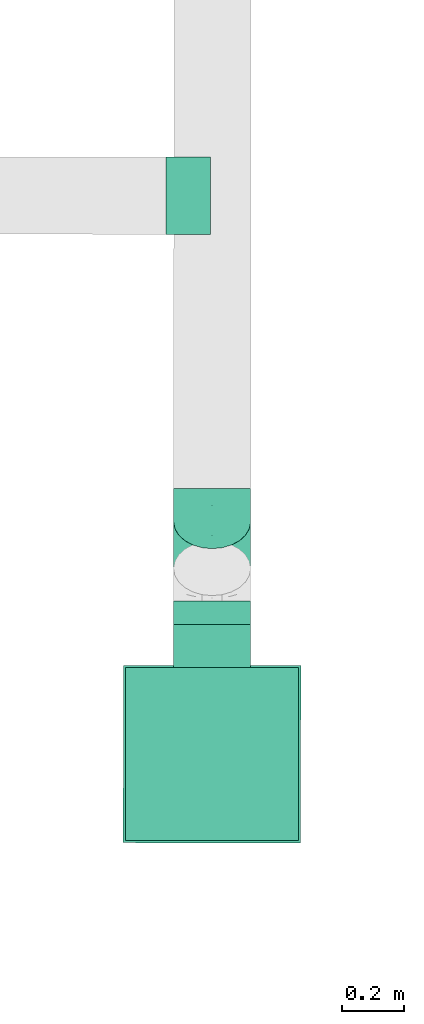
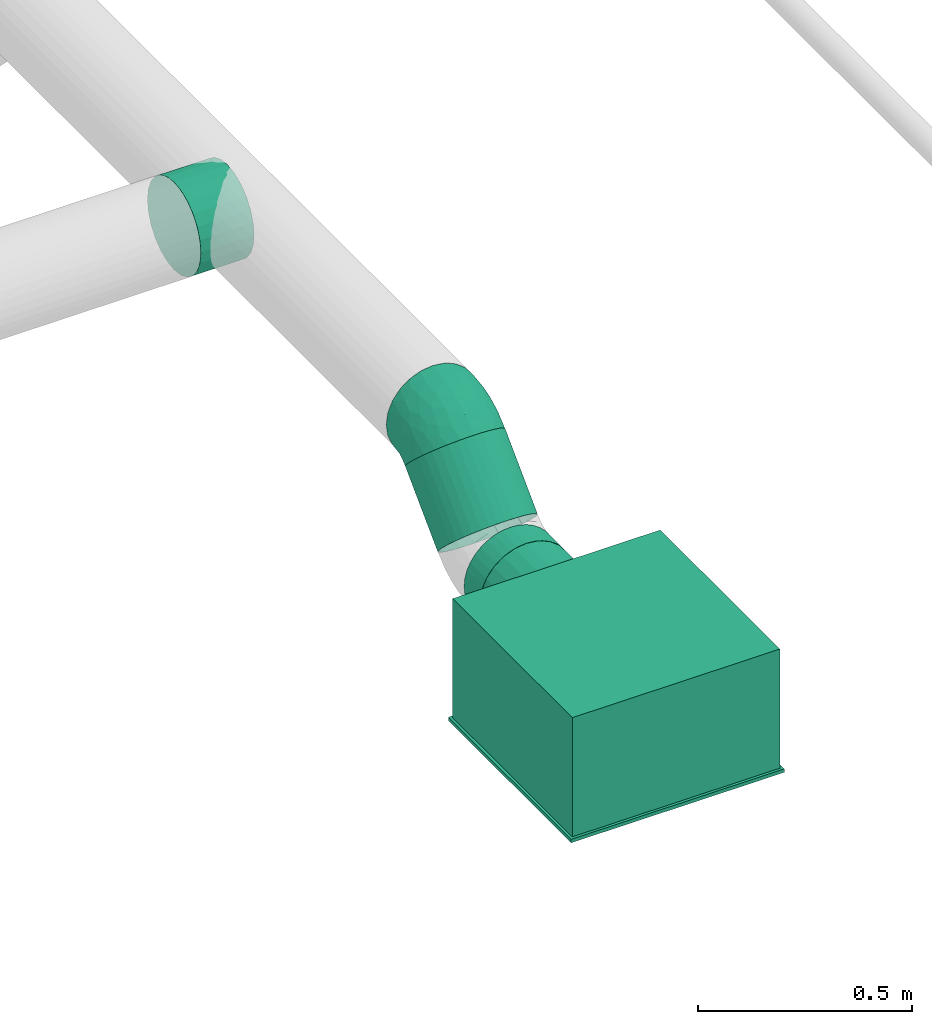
# One storey, part 28 of 63: 2 flow fittings, 2 flow segments, 1 flow terminal.
"""IFC2X3 building model written with IfcOpenShell, lengths in millimetres."""

from ifc_helpers import new_model, entity, si_unit, converted_unit, derived_unit, direction, frame, origin_with_axes, origin_2d_with_axis, place, context, subcontext, project, spatial, hollow_circle, extrude, open_shell, surface_model, source, transform, mapped, type_object, element, save


model = new_model("IFC2X3")

# Units and contexts
model_context = context("Model", 3, precision=0.01, world=frame((0.0, 4.29681676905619e-09, 0.0)), true_north=direction((4.01073788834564e-13, 1.0)))
plan_context = context("Plan", 3, precision=0.01, world=frame((0.0, 4.29681676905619e-09, 0.0)), true_north=direction((4.01073788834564e-13, 1.0)))
body_context = subcontext(model_context, "Body", "Model", "MODEL_VIEW")
ifc_project = project(units=[converted_unit("PLANEANGLEUNIT", "DEGREE", entity("IfcPositiveLengthMeasure", 0.0174532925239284), si_unit("PLANEANGLEUNIT", "RADIAN"), dimensions=[0, 0, 0, 0, 0, 0, 0]), si_unit("AREAUNIT", "SQUARE_METRE"), si_unit("LENGTHUNIT", "METRE", prefix="MILLI"), si_unit("MASSUNIT", "GRAM", prefix="KILO"), si_unit("POWERUNIT", "WATT"), si_unit("PRESSUREUNIT", "PASCAL"), si_unit("FORCEUNIT", "NEWTON", prefix="KILO"), si_unit("ELECTRICVOLTAGEUNIT", "VOLT"), si_unit("ELECTRICCURRENTUNIT", "AMPERE"), si_unit("THERMODYNAMICTEMPERATUREUNIT", "DEGREE_CELSIUS"), si_unit("TIMEUNIT", "SECOND"), si_unit("VOLUMEUNIT", "CUBIC_METRE"), derived_unit("LINEARVELOCITYUNIT", [(si_unit("LENGTHUNIT", "METRE"), 1), (si_unit("TIMEUNIT", "SECOND"), -1)]), derived_unit("VOLUMETRICFLOWRATEUNIT", [(si_unit("VOLUMEUNIT", "CUBIC_METRE"), 1), (si_unit("TIMEUNIT", "SECOND"), -1)]), derived_unit("THERMALTRANSMITTANCEUNIT", [(si_unit("POWERUNIT", "WATT"), 1), (si_unit("THERMODYNAMICTEMPERATUREUNIT", "KELVIN"), -1), (si_unit("AREAUNIT", "SQUARE_METRE"), -1)]), derived_unit("SOUNDPRESSUREUNIT", [(si_unit("PRESSUREUNIT", "PASCAL"), 1)])], contexts=[model_context, plan_context])

# Site, building, storey
site_placement = place(None, frame((0.0, -4.29681676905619e-09, 0.0), z_axis=(0.0, 0.0, 1.0), x_axis=(1.0, 0.0, 0.0)))
site = spatial("IfcSite", under=ifc_project, at=site_placement, CompositionType="ELEMENT")
building_placement = place(site_placement, frame((0.0, 4.29681676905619e-09, 0.0), z_axis=(0.0, 0.0, 1.0), x_axis=(1.0, 0.0, 0.0)))
building = spatial("IfcBuilding", under=site, at=building_placement, Name="mc-building", CompositionType="ELEMENT")
storey_placement = place(building_placement, frame((0.0, 0.0, 210900.0), z_axis=(0.0, 0.0, 1.0), x_axis=(1.0, 0.0, 0.0)))
storey = spatial("IfcBuildingStorey", under=building, at=storey_placement, Name="Nivå F", CompositionType="ELEMENT", Elevation=210900.0)

# Flow fittings
duct_fitting_type_1 = type_object("IfcDuctFittingType", Name="magicirc_elbow_short_001", PredefinedType="BEND")
shared_shape_1 = source(origin_with_axes(), body_context, "Body", "SurfaceModel", [
    surface_model("IfcShellBasedSurfaceModel", [(-62.13204, 0.0, -125.0), (-62.13204, -32.35238, -120.74073), (-62.13204, 32.35238, -120.74073), (-62.13204, 62.5, -108.25318), (-62.13204, 88.38835, -88.38835), (-62.13204, 108.25318, -62.5), (-62.13204, 120.74073, -32.35238), (-62.13204, -62.5, -108.25318), (-62.13204, -88.38835, -88.38835), (-62.13204, -125.0, 0.0), (-62.13204, -108.25318, -62.5), (-62.13204, -120.74073, -32.35238), (-62.13204, 125.0, 0.0), (-62.13204, -120.74073, 32.35238), (-62.13204, 120.74073, 32.35238), (-62.13204, 108.25318, 62.5), (-62.13204, 32.35238, 120.74073), (-62.13204, 62.5, 108.25318), (-62.13204, 88.38835, 88.38835), (-62.13204, -88.38835, 88.38835), (-62.13204, -108.25318, 62.5), (-62.13204, -32.35238, 120.74073), (-62.13204, 0.0, 125.0), (-62.13204, -62.5, 108.25318), (-32.61257, 120.48054, -62.5), (-41.44261, 129.31057, -32.35238), (-44.45436, 132.32233, 0.0), (-41.44261, 129.31057, 32.35238), (-32.61257, 120.48054, 62.5), (-39.32094, -100.77129, 72.52866), (-25.3983, -115.58366, 40.92131), (-9.38975, -99.61313, 67.6303), (-40.71594, 99.20513, 81.38635), (-18.56602, 106.43398, 88.38835), (6.93461, -16.74165, 121.22697), (-29.92798, -19.88945, 122.8817), (-17.69423, -50.99343, 111.83063), (-28.63512, 12.8945, 124.68547), (-43.55871, 45.16564, 117.17454), (-19.1971, 46.34588, 119.14586), (20.11216, -107.05726, 35.36285), (37.22525, -89.79474, 60.1728), (-42.64489, 65.81413, 107.6176), (18.18237, -43.89615, 109.72868), (-48.14682, 116.23669, 52.46898), (11.13029, 29.36587, 124.68547), (-8.4822, -119.71595, 0.0), (17.31186, -111.89141, 0.0), (-27.44697, 77.92943, 103.54984), (-1.13628, 62.73759, 117.17454), (-0.26019, 88.12816, 108.25318), (29.58221, -71.41779, 87.09722), (2.27359, -83.55864, 84.32151), (46.20365, -49.09439, 98.73245), (43.10591, -104.06687, 0.0), (-28.63512, 12.89449, -124.68547), (-29.92797, -19.88945, -122.8817), (11.13029, 29.36586, -124.68547), (-19.1971, 46.34588, -119.14586), (-43.55871, 45.16564, -117.17454), (-35.69649, 74.51237, -103.54983), (-25.3983, -115.58366, -40.92131), (-48.14682, 116.23669, -52.46898), (-39.32094, -100.77129, -72.52866), (-16.38313, 76.69211, -107.6176), (-18.56602, 106.43398, -88.38835), (-0.26019, 88.12816, -108.25318), (-17.69423, -50.99343, -111.83063), (6.93461, -16.74165, -121.22697), (-1.13628, 62.73759, -117.17454), (48.5695, -23.54609, -111.83063), (35.22623, 7.0983, -122.8817), (-9.38975, -99.61313, -67.63031), (2.04406, -67.38589, -98.73245), (29.58221, -71.41778, -87.09723), (43.93399, 43.934, -125.0), (106.43399, -18.56599, 88.38835), (132.32235, -44.45434, 0.0), (21.05739, 66.81058, -120.74073), (88.12817, -0.26017, 108.25318), (66.81057, 21.05741, -120.74073), (106.43399, -18.56599, -88.38835), (88.12817, -0.26017, -108.25318), (129.31058, -41.44258, -32.35238), (120.48055, -32.61255, -62.5), (21.05739, 66.81058, 120.74073), (43.93399, 43.934, 125.0), (129.31058, -41.44258, 32.35238), (120.48055, -32.61255, 62.5), (66.81057, 21.05741, 120.74073), (-31.08246, -121.94188, 0.0), (35.22622, 7.09831, 122.8817), (77.07669, -63.79755, 67.6303), (61.9235, -89.5906, 35.66991), (-52.56496, 126.90301, 0.0), (99.68931, -63.77067, 40.92131), (48.5695, -23.54609, 111.83062), (99.06018, -43.45194, 72.52866), (74.0201, -37.27574, 94.74512), (108.20455, -64.2473, 0.0), (90.64979, -78.65413, 0.0), (66.87785, -91.36049, 0.0), (-3.43913, -67.17105, 100.02812), (19.56361, -107.13664, -35.66991), (-41.35812, 98.93914, -81.38635), (-25.98217, -78.69805, -94.74512), (61.47949, -89.92235, -35.36285), (18.18239, -43.89616, -109.72867), (57.47721, -60.69254, -84.32152), (74.02009, -37.27574, -94.74513), (77.07669, -63.79755, -67.6303), (37.17223, -89.81669, -60.17279), (99.68931, -63.77066, -40.92131), (99.06018, -43.45194, -72.52866), (49.92893, -45.06527, -100.02812), (-25.98217, -78.69805, 94.74512)], [open_shell([[[0, 1, 2]], [[3, 2, 4]], [[1, 5, 2]], [[4, 2, 5]], [[5, 1, 6]], [[7, 8, 1]], [[9, 1, 8]], [[10, 11, 8]], [[9, 8, 11]], [[9, 6, 1]], [[9, 12, 6]], [[12, 13, 14]], [[15, 14, 16]], [[16, 17, 18]], [[15, 16, 18]], [[16, 14, 19]], [[20, 19, 13]], [[19, 14, 13]], [[21, 22, 23]], [[19, 23, 22]], [[19, 22, 16]], [[9, 13, 12]], [[24, 25, 26]], [[26, 27, 28]], [[29, 30, 31]], [[32, 33, 28]], [[30, 20, 13]], [[34, 35, 36]], [[21, 35, 22]], [[21, 23, 36]], [[16, 22, 37]], [[38, 37, 39]], [[31, 40, 41]], [[42, 17, 38]], [[38, 17, 16]], [[43, 34, 36]], [[35, 37, 22]], [[14, 15, 44]], [[42, 32, 18]], [[29, 19, 20]], [[40, 31, 30]], [[37, 45, 39]], [[45, 37, 34]], [[40, 46, 47]], [[42, 18, 17]], [[33, 32, 48]], [[27, 44, 28]], [[48, 39, 49]], [[33, 48, 50]], [[44, 32, 28]], [[18, 32, 15]], [[36, 35, 21]], [[37, 35, 34]], [[41, 51, 52]], [[14, 44, 27]], [[32, 44, 15]], [[37, 38, 16]], [[42, 39, 48]], [[39, 42, 38]], [[42, 48, 32]], [[48, 49, 50]], [[45, 49, 39]], [[30, 29, 20]], [[53, 43, 51]], [[46, 40, 30]], [[47, 54, 40]], [[41, 52, 31]], [[0, 2, 55]], [[56, 1, 0]], [[57, 55, 58]], [[59, 60, 58]], [[10, 61, 11]], [[3, 4, 60]], [[62, 6, 25]], [[61, 10, 63]], [[64, 65, 66]], [[1, 56, 67]], [[8, 63, 10]], [[7, 1, 67]], [[56, 55, 68]], [[25, 24, 62]], [[69, 64, 66]], [[2, 3, 59]], [[59, 55, 2]], [[69, 57, 58]], [[70, 68, 71]], [[55, 57, 68]], [[55, 56, 0]], [[67, 56, 68]], [[57, 71, 68]], [[6, 62, 5]], [[60, 59, 3]], [[55, 59, 58]], [[64, 58, 60]], [[58, 64, 69]], [[61, 63, 72]], [[72, 73, 74]], [[75, 76, 77]], [[66, 26, 78]], [[78, 79, 75]], [[24, 66, 65]], [[66, 24, 26]], [[80, 81, 82]], [[80, 75, 81]], [[81, 83, 84]], [[83, 81, 77]], [[75, 77, 81]], [[26, 28, 50]], [[50, 85, 26]], [[50, 28, 33]], [[26, 85, 86]], [[87, 76, 88]], [[77, 76, 87]], [[79, 86, 89]], [[76, 75, 79]], [[86, 79, 26]], [[78, 26, 79]], [[90, 46, 30]], [[91, 45, 34]], [[92, 41, 93]], [[94, 14, 27]], [[40, 93, 41]], [[94, 12, 14]], [[92, 93, 95]], [[40, 54, 93]], [[96, 89, 91]], [[97, 88, 76]], [[89, 96, 79]], [[88, 97, 95]], [[88, 95, 87]], [[96, 98, 79]], [[53, 92, 98]], [[95, 99, 87]], [[85, 50, 49]], [[41, 92, 51]], [[30, 13, 90]], [[26, 94, 27]], [[93, 100, 95]], [[93, 54, 101]], [[86, 91, 89]], [[86, 85, 45]], [[45, 85, 49]], [[34, 43, 96]], [[79, 98, 76]], [[93, 101, 100]], [[53, 98, 96]], [[97, 98, 92]], [[45, 91, 86]], [[96, 91, 34]], [[13, 9, 90]], [[99, 95, 100]], [[99, 77, 87]], [[98, 97, 76]], [[95, 97, 92]], [[51, 43, 102]], [[51, 102, 52]], [[43, 36, 102]], [[43, 53, 96]], [[92, 53, 51]], [[103, 46, 61]], [[78, 75, 57]], [[4, 104, 60]], [[73, 72, 105]], [[80, 82, 70]], [[61, 90, 11]], [[83, 77, 99]], [[105, 7, 67]], [[106, 100, 101]], [[103, 54, 47]], [[72, 103, 61]], [[105, 8, 7]], [[68, 107, 67]], [[6, 12, 94]], [[108, 109, 110]], [[94, 26, 25]], [[111, 72, 74]], [[112, 83, 99]], [[82, 81, 109]], [[112, 84, 83]], [[64, 104, 65]], [[4, 5, 104]], [[113, 81, 84]], [[109, 108, 114]], [[70, 82, 109]], [[66, 78, 69]], [[75, 80, 71]], [[110, 113, 112]], [[107, 68, 70]], [[112, 99, 100]], [[106, 103, 111]], [[106, 110, 112]], [[110, 106, 111]], [[71, 57, 75]], [[103, 47, 46]], [[94, 25, 6]], [[113, 109, 81]], [[106, 54, 103]], [[73, 105, 67]], [[63, 105, 72]], [[62, 104, 5]], [[65, 104, 24]], [[70, 71, 80]], [[90, 61, 46]], [[90, 9, 11]], [[72, 111, 103]], [[111, 74, 108]], [[104, 62, 24]], [[57, 69, 78]], [[64, 60, 104]], [[112, 113, 84]], [[109, 113, 110]], [[105, 63, 8]], [[114, 70, 109]], [[73, 107, 74]], [[100, 106, 112]], [[101, 54, 106]], [[111, 108, 110]], [[74, 107, 114]], [[74, 114, 108]], [[107, 70, 114]], [[107, 73, 67]], [[23, 115, 36]], [[52, 102, 115]], [[23, 19, 115]], [[29, 115, 19]], [[52, 115, 31]], [[115, 29, 31]], [[102, 36, 115]]])]),
])
flow_fitting_1_placement = place(storey_placement, frame((534104.08878, 451581.46028, 4200.0), z_axis=(-0.999999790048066, 0.000647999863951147, -3.79470760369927e-19), x_axis=(0.000458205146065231, 0.707106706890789, 0.707106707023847)))
element("IfcFlowFitting", 1, at=flow_fitting_1_placement, inside=storey, type_object=duct_fitting_type_1, Name="magicirc_elbow_short_001", context=body_context, shape_type="MappedRepresentation", body=[
    mapped(shared_shape_1, transform((0.0, 0.0, 0.0), scale=1.0)),
])
duct_fitting_type_2 = type_object("IfcDuctFittingType", Name="magicirc_tapoutlet_001", PredefinedType="CONNECTOR")
shared_shape_2 = source(origin_with_axes(), body_context, "Body", "SurfaceModel", [
    surface_model("IfcShellBasedSurfaceModel", [(-118.904, 88.38835, -88.38835), (-118.904, 120.74073, 32.35238), (-118.904, 108.25318, -62.5), (-118.904, -88.38835, -88.38835), (-118.904, -125.0, 0.0), (-118.904, -62.5, -108.25318), (-118.904, -120.74073, -32.35238), (-118.904, -108.25318, -62.5), (0.0, 125.0, 0.0), (0.0, 120.74073, -32.35238), (-118.904, 125.0, 0.0), (0.0, -120.74073, -32.35238), (0.0, -125.0, 0.0), (-118.904, -32.35238, -120.74073), (-118.904, 0.0, -125.0), (-118.904, 62.5, -108.25318), (-118.904, 32.35238, -120.74073), (-118.904, 120.74073, -32.35238), (-118.904, -120.74073, 32.35238), (-118.904, -108.25318, 62.5), (-118.904, -62.5, 108.25318), (-118.904, -32.35238, 120.74073), (-118.904, -88.38835, 88.38835), (-118.904, 62.5, 108.25318), (-118.904, 108.25318, 62.5), (-118.904, 88.38835, 88.38835), (-118.904, 32.35238, 120.74073), (-118.904, 0.0, 125.0), (0.0, -32.35238, 120.74073), (0.0, 0.0, 125.0), (0.0, -62.5, 108.25318), (0.0, -88.38835, 88.38835), (0.0, -120.74073, 32.35238), (0.0, -108.25318, 62.5), (0.0, -108.25318, -62.5), (0.0, -88.38835, -88.38835), (0.0, -32.35238, -120.74073), (0.0, -62.5, -108.25318), (0.0, 0.0, -125.0), (0.0, 32.35238, -120.74073), (0.0, 62.5, -108.25318), (0.0, 88.38835, -88.38835), (0.0, 108.25318, -62.5), (0.0, 120.74073, 32.35238), (0.0, 108.25318, 62.5), (0.0, 88.38835, 88.38835), (0.0, 32.35238, 120.74073), (0.0, 62.5, 108.25318), (25.0, -88.38835, -88.38835), (25.0, -120.74073, 32.35238), (25.0, -108.25318, -62.5), (25.0, 32.35238, -120.74073), (25.0, 0.0, -125.0), (25.0, 62.5, -108.25318), (25.0, -32.35238, -120.74073), (25.0, -62.5, -108.25318), (25.0, -125.0, 0.0), (25.0, -120.74073, -32.35238), (25.0, 88.38835, -88.38835), (25.0, 108.25318, -62.5), (25.0, 125.0, 0.0), (25.0, 120.74073, 32.35238), (25.0, 120.74073, -32.35238), (25.0, -108.25318, 62.5), (25.0, -62.5, 108.25318), (25.0, -32.35238, 120.74073), (25.0, -88.38835, 88.38835), (25.0, 0.0, 125.0), (25.0, 108.25318, 62.5), (25.0, 88.38835, 88.38835), (25.0, 32.35238, 120.74073), (25.0, 62.5, 108.25318)], [open_shell([[[0, 1, 2]], [[3, 4, 5]], [[6, 4, 7]], [[3, 7, 4]], [[8, 9, 10]], [[4, 11, 12]], [[13, 4, 14]], [[5, 4, 13]], [[0, 14, 1]], [[14, 15, 16]], [[14, 0, 15]], [[2, 1, 17]], [[2, 0, 1]], [[1, 10, 17]], [[4, 7, 6]], [[18, 19, 14]], [[14, 19, 20]], [[21, 14, 20]], [[20, 19, 22]], [[14, 21, 23]], [[14, 24, 1]], [[25, 24, 14]], [[25, 14, 23]], [[21, 26, 23]], [[21, 27, 26]], [[4, 18, 14]], [[28, 29, 21]], [[30, 28, 20]], [[21, 29, 27]], [[20, 28, 21]], [[20, 22, 30]], [[22, 31, 30]], [[32, 33, 18]], [[12, 32, 4]], [[22, 19, 31]], [[19, 33, 31]], [[18, 33, 19]], [[18, 4, 32]], [[7, 34, 11]], [[6, 11, 4]], [[34, 7, 3]], [[6, 7, 11]], [[3, 35, 34]], [[36, 37, 13]], [[38, 36, 14]], [[3, 5, 35]], [[5, 37, 35]], [[13, 37, 5]], [[13, 14, 36]], [[39, 38, 16]], [[40, 39, 15]], [[16, 38, 14]], [[15, 39, 16]], [[15, 0, 40]], [[0, 41, 40]], [[9, 42, 17]], [[0, 2, 41]], [[2, 42, 41]], [[17, 42, 2]], [[17, 10, 9]], [[43, 8, 1]], [[44, 43, 24]], [[1, 8, 10]], [[24, 43, 1]], [[24, 25, 44]], [[25, 45, 44]], [[46, 47, 26]], [[29, 46, 27]], [[25, 23, 45]], [[23, 47, 45]], [[26, 47, 23]], [[26, 27, 46]], [[7, 4, 3]], [[15, 16, 14]], [[19, 14, 18]], [[19, 22, 14]], [[14, 22, 20]], [[14, 23, 25]], [[27, 26, 21]], [[14, 4, 18]], [[48, 49, 50]], [[51, 52, 38]], [[53, 51, 39]], [[53, 39, 40]], [[38, 52, 54]], [[36, 54, 55]], [[37, 36, 55]], [[56, 57, 49]], [[58, 59, 60]], [[58, 60, 53]], [[52, 51, 54]], [[54, 49, 55]], [[55, 49, 48]], [[54, 60, 61]], [[54, 51, 53]], [[62, 60, 59]], [[53, 60, 54]], [[57, 50, 49]], [[63, 49, 54]], [[64, 63, 54]], [[64, 54, 65]], [[66, 63, 64]], [[67, 65, 54]], [[61, 68, 54]], [[68, 69, 54]], [[70, 67, 71]], [[69, 71, 67]], [[54, 69, 67]], [[65, 67, 29]], [[64, 65, 28]], [[28, 65, 29]], [[31, 66, 30]], [[64, 28, 30]], [[64, 30, 66]], [[49, 63, 33]], [[56, 49, 32]], [[33, 63, 31]], [[49, 33, 32]], [[56, 32, 12]], [[66, 31, 63]], [[57, 56, 12]], [[50, 57, 11]], [[11, 57, 12]], [[35, 48, 34]], [[50, 11, 34]], [[50, 34, 48]], [[37, 55, 35]], [[54, 36, 38]], [[48, 35, 55]], [[39, 51, 38]], [[41, 58, 40]], [[53, 40, 58]], [[62, 59, 42]], [[60, 62, 9]], [[42, 59, 41]], [[62, 42, 9]], [[60, 9, 8]], [[58, 41, 59]], [[61, 60, 8]], [[68, 61, 43]], [[43, 61, 8]], [[45, 69, 44]], [[68, 43, 44]], [[68, 44, 69]], [[70, 71, 47]], [[67, 70, 46]], [[47, 71, 45]], [[70, 47, 46]], [[67, 46, 29]], [[69, 45, 71]], [[66, 63, 54]], [[54, 65, 64]], [[64, 66, 54]], [[54, 69, 71]], [[67, 54, 71]]])]),
])
flow_fitting_2_placement = place(storey_placement, frame((533979.74383, 452592.76929, 4200.0), z_axis=(0.0, 0.0, -1.0), x_axis=(-0.999999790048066, 0.000647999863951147, 0.0)))
element("IfcFlowFitting", 2, at=flow_fitting_2_placement, inside=storey, type_object=duct_fitting_type_2, Name="magicirc_tapoutlet_001", context=body_context, shape_type="MappedRepresentation", body=[
    mapped(shared_shape_2, transform((0.0, 0.0, 0.0), scale=1.0)),
])

# Flow segments
duct_segment_type = type_object("IfcDuctSegmentType", Name="KK002T - Spiro kanaler, Forsinket stål, korte bend", PredefinedType="RIGIDSEGMENT")
shared_shape_3 = source(origin_with_axes(), body_context, "Body", "SweptSolid", [
    extrude(hollow_circle(Radius=125.0, WallThickness=2.0, at=origin_2d_with_axis()), frame((0.0, 0.0, 0.0), z_axis=(1.0, 0.0, 0.0), x_axis=(0.0, 1.0, 0.0)), (0.0, 0.0, 1.0), 75.7),
])
flow_segment_1_placement = place(storey_placement, frame((534103.84404, 451203.62102, 3960.01264), z_axis=(0.0, 0.0, 1.0), x_axis=(0.000647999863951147, 0.999999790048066, 0.0)))
element("IfcFlowSegment", 3, at=flow_segment_1_placement, inside=storey, type_object=duct_segment_type, Name="KK002T - Spiro kanaler, Forsinket stål, korte bend", context=body_context, shape_type="MappedRepresentation", body=[
    mapped(shared_shape_3, transform((0.0, 0.0, 0.0), scale=1.0)),
])
shared_shape_4 = source(origin_with_axes(), body_context, "Body", "SweptSolid", [
    extrude(hollow_circle(Radius=125.0, WallThickness=2.0, at=origin_2d_with_axis()), frame((0.0, 0.0, 0.0), z_axis=(1.0, 0.0, 0.0), x_axis=(0.0, 1.0, 0.0)), (0.0, 0.0, 1.0), 215.1),
])
flow_segment_2_placement = place(storey_placement, frame((534103.96179, 451385.40701, 4003.94662999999), z_axis=(-0.00045799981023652, -0.707106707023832, 0.707106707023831), x_axis=(0.000457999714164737, 0.707106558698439, 0.707106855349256)))
element("IfcFlowSegment", 4, at=flow_segment_2_placement, inside=storey, type_object=duct_segment_type, Name="KK002T - Spiro kanaler, Forsinket stål, korte bend", context=body_context, shape_type="MappedRepresentation", body=[
    mapped(shared_shape_4, transform((0.0, 0.0, 0.0), scale=1.0)),
])

# Flow terminal
air_terminal_type = type_object("IfcAirTerminalType", Name="NS19-H-S-2-250 - 4-way", PredefinedType="NOTDEFINED")
shared_shape_5 = source(origin_with_axes(), body_context, "Body", "SurfaceModel", [
    surface_model("IfcShellBasedSurfaceModel", [(-287.5, 287.5, 0.0), (-287.5, -287.5, 0.0), (287.5, -287.5, 0.0), (287.5, 287.5, 0.0), (287.5, 287.5, -10.0), (287.5, -287.5, -10.0), (-287.5, -287.5, -10.0), (-287.5, 287.5, -10.0), (-280.0, 280.0, 340.0), (-280.0, -280.0, 340.0), (280.0, -280.0, 340.0), (280.0, 280.0, 340.0), (280.0, 280.0, 0.0), (280.0, -280.0, 0.0), (-280.0, -280.0, 0.0), (-280.0, 280.0, 0.0), (-280.0, 62.5, 81.74683), (-280.0, 88.38835, 101.61165), (-280.0, 62.4, 81.92003), (-280.0, 32.30062, 69.45246), (-280.0, 0.0, 65.2), (-280.0, 32.35238, 69.25927), (-280.0, 0.0, 65.0), (-280.0, 88.24693, 101.75307), (-280.0, 120.74073, 157.64763), (-280.0, 124.8, 189.99999), (-280.0, 120.54755, 157.69939), (-280.0, 125.0, 189.99999), (-280.0, 108.25318, 127.5), (-280.0, 108.07997, 127.6), (-280.0, -32.30062, 69.45246), (-280.0, -32.35238, 69.25927), (-280.0, -62.4, 81.92003), (-280.0, -88.38835, 101.61165), (-280.0, -62.5, 81.74683), (-280.0, -88.24693, 101.75307), (-280.0, -108.07997, 127.6), (-280.0, -108.25318, 127.5), (-280.0, -120.54755, 157.69939), (-280.0, -120.74073, 157.64763), (-280.0, -124.8, 189.99999), (-280.0, -125.0, 189.99999), (-280.0, 120.74073, 222.35238), (-280.0, 120.54755, 222.30062), (-280.0, 108.07997, 252.4), (-280.0, 108.25318, 252.49999), (-280.0, 88.24693, 278.24693), (-280.0, 88.38835, 278.38835), (-280.0, 62.5, 298.25318), (-280.0, 62.4, 298.07997), (-280.0, 32.30062, 310.54754), (-280.0, 32.35238, 310.74073), (-280.0, 0.0, 314.80001), (-280.0, 0.0, 315.0), (-280.0, -108.25318, 252.49999), (-280.0, -108.07997, 252.4), (-280.0, -88.38835, 278.38835), (-280.0, -88.24693, 278.24693), (-280.0, -120.74073, 222.35238), (-280.0, -120.54755, 222.30062), (-280.0, -32.30062, 310.54754), (-280.0, -32.35238, 310.74073), (-280.0, -62.4, 298.07997), (-280.0, -62.5, 298.25318), (-420.00002, 62.5, 298.25318), (-420.00002, 88.38835, 278.38835), (-420.00002, 62.4, 298.07997), (-420.00002, 32.30062, 310.54754), (-420.00002, 0.0, 314.80001), (-420.00002, 32.35238, 310.74073), (-420.00002, 0.0, 315.0), (-420.00002, 88.24693, 278.24693), (-420.00002, 120.74073, 222.35238), (-420.00002, 124.8, 189.99999), (-420.00002, 120.54755, 222.30062), (-420.00002, 125.0, 189.99999), (-420.00002, 108.25318, 252.49999), (-420.00002, 108.07997, 252.4), (-420.00002, -32.30062, 310.54754), (-420.00002, -32.35238, 310.74073), (-420.00002, -62.4, 298.07997), (-420.00002, -88.38835, 278.38835), (-420.00002, -62.5, 298.25318), (-420.00002, -88.24693, 278.24693), (-420.00002, -108.07997, 252.4), (-420.00002, -108.25318, 252.49999), (-420.00002, -120.54755, 222.30062), (-420.00002, -120.74073, 222.35238), (-420.00002, -124.8, 189.99999), (-420.00002, -125.0, 189.99999), (-420.00002, 120.74073, 157.64763), (-420.00002, 120.54755, 157.69939), (-420.00002, 108.07997, 127.6), (-420.00002, 108.25318, 127.5), (-420.00002, 88.24693, 101.75307), (-420.00002, 88.38835, 101.61165), (-420.00002, 62.5, 81.74683), (-420.00002, 62.4, 81.92003), (-420.00002, 32.30062, 69.45246), (-420.00002, 32.35238, 69.25927), (-420.00002, 0.0, 65.2), (-420.00002, 0.0, 65.0), (-420.00002, -108.25318, 127.5), (-420.00002, -108.07997, 127.6), (-420.00002, -88.38835, 101.61165), (-420.00002, -88.24693, 101.75307), (-420.00002, -120.74073, 157.64763), (-420.00002, -120.54755, 157.69939), (-420.00002, -32.30062, 69.45246), (-420.00002, -32.35238, 69.25927), (-420.00002, -62.4, 81.92003), (-420.00002, -62.5, 81.74683)], [open_shell([[[0, 1, 2]], [[2, 3, 0]], [[4, 5, 6]], [[6, 7, 4]], [[2, 1, 6]], [[6, 5, 2]], [[3, 2, 5]], [[5, 4, 3]], [[0, 3, 4]], [[4, 7, 0]], [[1, 0, 7]], [[7, 6, 1]], [[8, 9, 10]], [[10, 11, 8]], [[12, 13, 14]], [[14, 15, 12]], [[10, 9, 14]], [[14, 13, 10]], [[11, 10, 13]], [[13, 12, 11]], [[8, 11, 12]], [[12, 15, 8]], [[9, 8, 15]], [[15, 14, 9]], [[16, 17, 18]], [[16, 18, 19]], [[20, 21, 19]], [[21, 20, 22]], [[19, 21, 16]], [[18, 17, 23]], [[24, 25, 26]], [[25, 24, 27]], [[24, 26, 28]], [[23, 28, 29]], [[28, 23, 17]], [[29, 28, 26]], [[22, 30, 31]], [[31, 30, 32]], [[33, 34, 35]], [[32, 34, 31]], [[32, 35, 34]], [[22, 20, 30]], [[36, 37, 33]], [[37, 36, 38]], [[36, 33, 35]], [[39, 38, 40]], [[38, 39, 37]], [[39, 40, 41]], [[27, 42, 43]], [[43, 42, 44]], [[44, 45, 46]], [[45, 44, 42]], [[46, 45, 47]], [[47, 48, 49]], [[49, 48, 50]], [[50, 51, 52]], [[51, 50, 48]], [[52, 51, 53]], [[49, 46, 47]], [[54, 55, 56]], [[56, 55, 57]], [[55, 54, 58]], [[41, 59, 58]], [[58, 59, 55]], [[41, 40, 59]], [[60, 53, 61]], [[60, 61, 62]], [[57, 63, 56]], [[57, 62, 63]], [[63, 62, 61]], [[52, 53, 60]], [[43, 25, 27]], [[64, 65, 66]], [[64, 66, 67]], [[68, 69, 67]], [[69, 68, 70]], [[67, 69, 64]], [[66, 65, 71]], [[72, 73, 74]], [[73, 72, 75]], [[72, 74, 76]], [[71, 76, 77]], [[76, 71, 65]], [[77, 76, 74]], [[70, 78, 79]], [[79, 78, 80]], [[81, 82, 83]], [[80, 82, 79]], [[80, 83, 82]], [[70, 68, 78]], [[84, 85, 81]], [[85, 84, 86]], [[84, 81, 83]], [[87, 86, 88]], [[86, 87, 85]], [[87, 88, 89]], [[75, 90, 91]], [[91, 90, 92]], [[92, 93, 94]], [[93, 92, 90]], [[94, 93, 95]], [[95, 96, 97]], [[97, 96, 98]], [[98, 99, 100]], [[99, 98, 96]], [[100, 99, 101]], [[97, 94, 95]], [[102, 103, 104]], [[104, 103, 105]], [[103, 102, 106]], [[89, 107, 106]], [[106, 107, 103]], [[89, 88, 107]], [[108, 101, 109]], [[108, 109, 110]], [[105, 111, 104]], [[105, 110, 111]], [[111, 110, 109]], [[100, 101, 108]], [[91, 73, 75]], [[39, 106, 102]], [[104, 37, 102]], [[34, 111, 109]], [[104, 111, 33]], [[31, 109, 101]], [[106, 41, 89]], [[106, 39, 41]], [[102, 37, 39]], [[104, 33, 37]], [[34, 33, 111]], [[109, 31, 34]], [[101, 22, 31]], [[21, 99, 96]], [[95, 16, 96]], [[28, 93, 90]], [[95, 93, 17]], [[24, 90, 75]], [[99, 21, 22]], [[96, 16, 21]], [[95, 17, 16]], [[93, 28, 17]], [[24, 28, 90]], [[75, 27, 24]], [[99, 22, 101]], [[42, 75, 72]], [[45, 72, 76]], [[48, 64, 69]], [[51, 69, 70]], [[72, 45, 42]], [[42, 27, 75]], [[65, 47, 45]], [[47, 65, 48]], [[48, 65, 64]], [[69, 51, 48]], [[65, 45, 76]], [[70, 53, 51]], [[61, 79, 82]], [[81, 63, 82]], [[54, 85, 87]], [[81, 85, 56]], [[58, 87, 89]], [[79, 61, 53]], [[82, 63, 61]], [[81, 56, 63]], [[85, 54, 56]], [[58, 54, 87]], [[89, 41, 58]], [[79, 53, 70]], [[103, 107, 38]], [[103, 36, 105]], [[108, 110, 32]], [[35, 110, 105]], [[100, 108, 30]], [[88, 40, 107]], [[40, 38, 107]], [[38, 36, 103]], [[36, 35, 105]], [[110, 35, 32]], [[32, 30, 108]], [[30, 20, 100]], [[97, 98, 19]], [[97, 18, 94]], [[91, 92, 29]], [[23, 92, 94]], [[73, 91, 26]], [[20, 19, 98]], [[19, 18, 97]], [[18, 23, 94]], [[23, 29, 92]], [[91, 29, 26]], [[26, 25, 73]], [[100, 20, 98]], [[74, 73, 43]], [[77, 74, 44]], [[67, 66, 49]], [[68, 67, 50]], [[43, 44, 74]], [[73, 25, 43]], [[44, 46, 71]], [[49, 71, 46]], [[66, 71, 49]], [[49, 50, 67]], [[77, 44, 71]], [[50, 52, 68]], [[80, 78, 60]], [[80, 62, 83]], [[86, 84, 55]], [[57, 84, 83]], [[88, 86, 59]], [[52, 60, 78]], [[60, 62, 80]], [[62, 57, 83]], [[57, 55, 84]], [[86, 55, 59]], [[59, 40, 88]], [[68, 52, 78]]])]),
])
flow_terminal_placement = place(storey_placement, frame((534103.57197, 450783.59337, 3770.0), z_axis=(0.0, 0.0, 1.0), x_axis=(-0.000647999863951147, -0.999999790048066, 0.0)))
element("IfcFlowTerminal", 5, at=flow_terminal_placement, inside=storey, type_object=air_terminal_type, Name="NS19-H-S-2-250 - 4-way", context=body_context, shape_type="MappedRepresentation", body=[
    mapped(shared_shape_5, transform((0.0, 0.0, 0.0), scale=1.0)),
])

save(model, "model.ifc")
